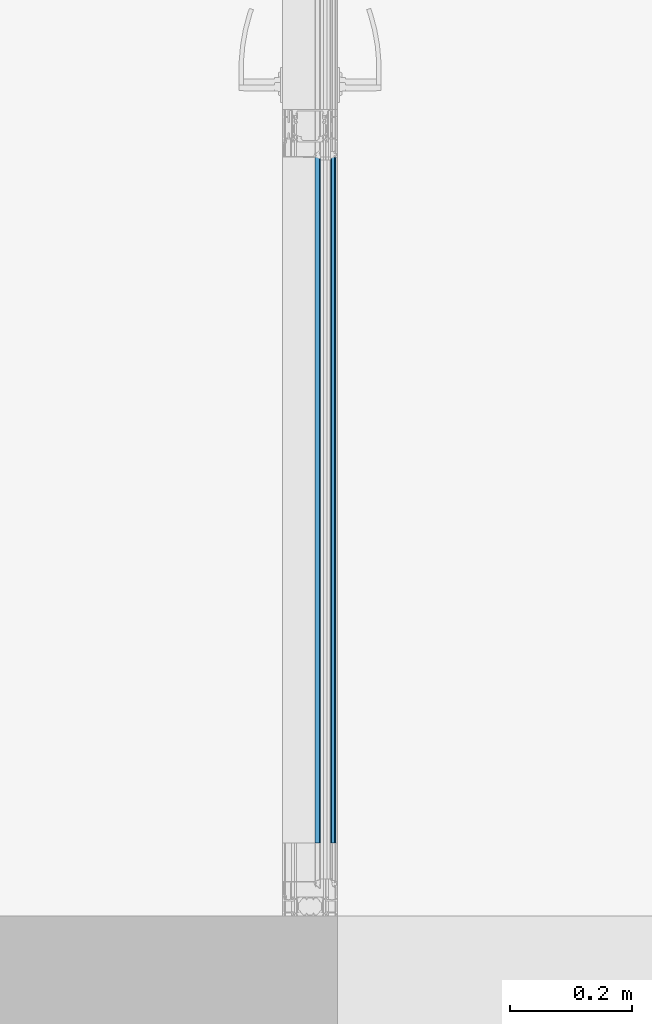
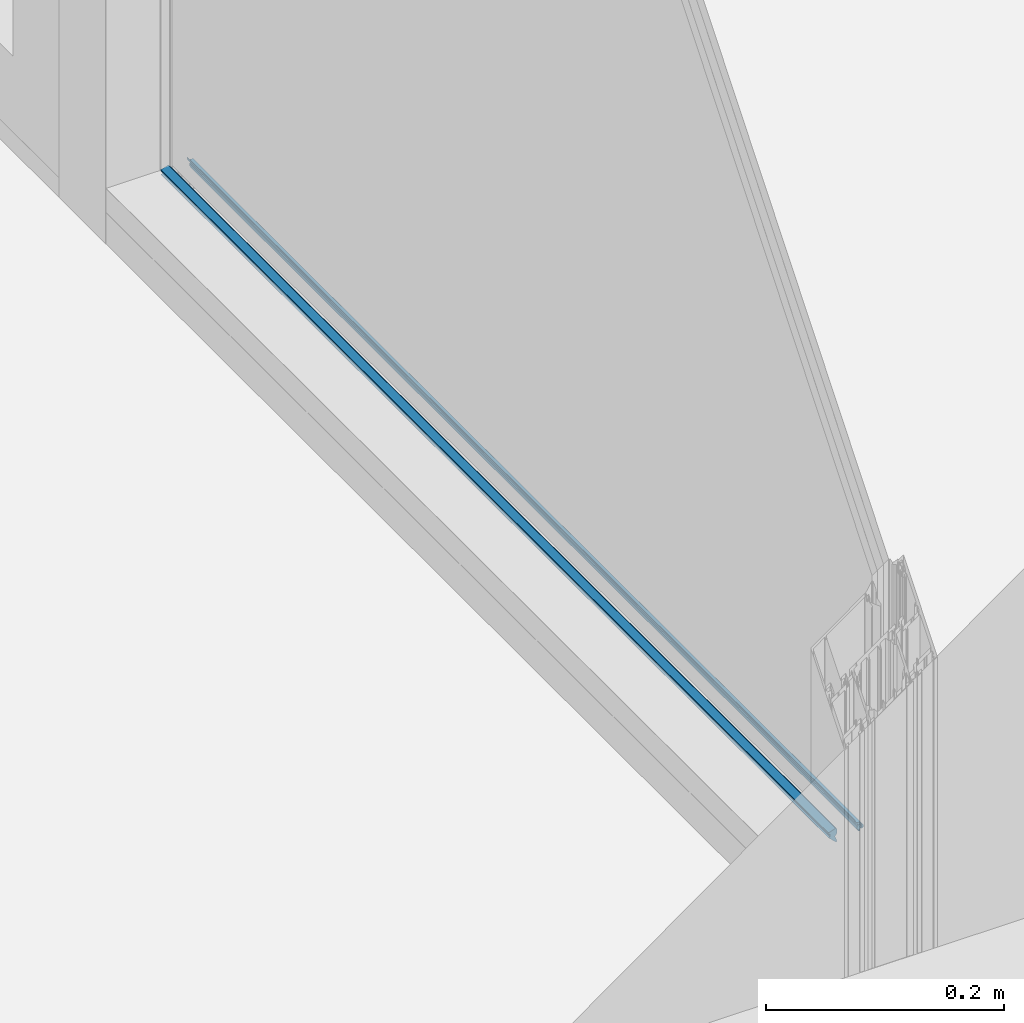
# One storey, part 39 of 65: 1 building element part, 2 elements without a shape of their own.
"""IFC2X3 building model written with IfcOpenShell, lengths in millimetres."""

from ifc_helpers import new_model, entity, si_unit, converted_unit, derived_unit, money_unit, direction, frame, origin_with_axes, place, context, subcontext, project, spatial, faceted_brep, material, type_object, element, aggregate, save


model = new_model("IFC2X3")

# Units and contexts
model_context = context("Model", 3, precision=0.01, world=origin_with_axes(), true_north=direction((0.0, 1.0)))
body_context = subcontext(model_context, "Body", "Model", "MODEL_VIEW")
ifc_project = project(units=[si_unit("LENGTHUNIT", "METRE", prefix="MILLI"), si_unit("AREAUNIT", "SQUARE_METRE"), si_unit("VOLUMEUNIT", "CUBIC_METRE"), converted_unit("PLANEANGLEUNIT", "DEGREE", entity("IfcPlaneAngleMeasure", 0.0174532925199), si_unit("PLANEANGLEUNIT", "RADIAN"), dimensions=[0, 0, 0, 0, 0, 0, 0]), si_unit("SOLIDANGLEUNIT", "STERADIAN"), money_unit("EUR"), converted_unit("TIMEUNIT", "Year", entity("IfcTimeMeasure", 31556926.0), si_unit("TIMEUNIT", "SECOND"), dimensions=[0, 0, 1, 0, 0, 0, 0]), si_unit("MASSUNIT", "GRAM", prefix="KILO"), si_unit("THERMODYNAMICTEMPERATUREUNIT", "DEGREE_CELSIUS"), si_unit("LUMINOUSINTENSITYUNIT", "LUMEN"), si_unit("ENERGYUNIT", "JOULE", prefix="MEGA"), derived_unit("THERMALCONDUCTANCEUNIT", [(si_unit("POWERUNIT", "WATT"), 1), (si_unit("LENGTHUNIT", "METRE"), -1), (si_unit("THERMODYNAMICTEMPERATUREUNIT", "KELVIN"), -1)]), derived_unit("SPECIFICHEATCAPACITYUNIT", [(si_unit("ENERGYUNIT", "JOULE"), 1), (si_unit("MASSUNIT", "GRAM", prefix="KILO"), -1), (si_unit("THERMODYNAMICTEMPERATUREUNIT", "KELVIN"), -1)]), derived_unit("MASSDENSITYUNIT", [(si_unit("MASSUNIT", "GRAM", prefix="KILO"), 1), (si_unit("VOLUMEUNIT", "CUBIC_METRE"), -1)])], contexts=[model_context])

# Site, building, storey
site_placement = place(None, origin_with_axes())
site = spatial("IfcSite", under=ifc_project, at=site_placement, Name="Puškini 31, Narva", CompositionType="ELEMENT")
building_placement = place(site_placement, origin_with_axes())
building = spatial("IfcBuilding", under=site, at=building_placement, Name="Narva Riigigümnaasium", CompositionType="ELEMENT")
storey_placement = place(building_placement, frame((0.0, 0.0, -1320.0), z_axis=(0.0, 0.0, 1.0), x_axis=(1.0, 0.0, 0.0)))
storey = spatial("IfcBuildingStorey", under=building, at=storey_placement, Name="1.korrus -1.32", CompositionType="ELEMENT", Elevation=-1320.0)

# Curtain wall, member, building element part
curtain_wall_type = type_object("IfcCurtainWallType", Name="Curtain Wall Type", PredefinedType="NOTDEFINED")
curtain_wall_placement = place(storey_placement, frame((28354.9542923, 194209.397521, 0.0), z_axis=(0.0, 0.0, 1.0), x_axis=(1.0, 0.0, 0.0)))
curtain_wall = element("IfcCurtainWall", 1, at=curtain_wall_placement, inside=storey, type_object=curtain_wall_type, Name="G-SKLF-07")
member_type = type_object("IfcMemberType", Name="61 x 45", PredefinedType="MULLION")
member_placement = place(curtain_wall_placement, frame((-0.00773685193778, -1909.4016524, 0.0), z_axis=(4.05197718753e-06, 0.999999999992, 0.0), x_axis=(0.0, 0.0, 1.0)))
member = element("IfcMember", 2, at=member_placement, type_object=member_type, Name="G-SKLF-07-raam", ObjectType="MULLION")
aggregate(curtain_wall, [member])
ifc_material = material(Name="Membraan - Veekindel")
building_element_part_placement = place(member_placement, origin_with_axes())
building_element_part = element("IfcBuildingElementPart", 3, at=building_element_part_placement, material=ifc_material, Name="Membraan - Veekindel", context=body_context, shape_type="Brep", body=[
    faceted_brep([(61.0413385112, 34.3890442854, 0.0), (59.5800222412, 34.73794757, 0.0), (59.5800222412, 34.73794757, 1122.0), (61.0413385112, 34.3890442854, 1122.0), (61.1536677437, 34.1934467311, 0.0), (61.1423164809, 33.9681748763, 0.0), (61.0108941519, 33.784859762, 0.0), (60.7381535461, 33.9217644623, 0.0), (59.8409257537, 34.1343131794, 0.0), (58.2346494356, 34.5489145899, 0.0), (56.9567944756, 35.6067920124, 0.0), (56.2495873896, 37.1074172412, 0.0), (56.1542959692, 37.3107917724, 0.0), (55.9795989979, 37.4519392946, 0.0), (55.7607444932, 37.5023809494, 0.0), (55.1093263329, 37.5023809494, 0.0), (54.8593263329, 37.4353936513, 0.0), (54.676313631, 37.2523809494, 0.0), (54.2721684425, 36.5523809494, 0.0), (54.0891557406, 36.3693682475, 0.0), (53.8391557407, 36.3023809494, 0.0), (51.602145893, 36.3023809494, 0.0), (51.352145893, 36.3693682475, 0.0), (51.1691331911, 36.5523809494, 0.0), (50.7649880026, 37.2523809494, 0.0), (50.5819753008, 37.4353936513, 0.0), (50.3319753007, 37.5023809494, 0.0), (49.2206527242, 37.5023809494, 0.0), (48.9706527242, 37.5693682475, 0.0), (48.7876400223, 37.7523809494, 0.0), (48.7206527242, 38.0023809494, 0.0), (48.7206527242, 39.1999494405, 0.0), (50.10004, 39.1999494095, 0.0), (50.1670287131, 38.9499497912, 0.0), (50.3500424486, 38.7669381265, 0.0), (50.6000428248, 38.699952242, 0.0), (50.8500424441, 38.7669409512, 0.0), (51.0330541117, 38.9499546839, 0.0), (51.10004, 39.1999550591, 0.0), (51.10004, 40.4999366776, 0.0), (51.0598476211, 40.6499366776, 0.0), (50.95004, 40.7597442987, 0.0), (50.80004, 40.7999366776, 0.0), (50.7000457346, 40.7999366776, 0.0), (50.5334025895, 40.8504763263, 0.0), (50.4229059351, 40.9850671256, 0.0), (50.4057850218, 41.1583618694, 0.0), (50.4878083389, 41.3119729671, 0.0), (51.5281601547, 42.3533311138, 0.0), (51.6904310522, 42.4618421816, 0.0), (51.8818844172, 42.4999486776, 0.0), (53.517932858, 42.4999486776, 0.0), (53.7093558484, 42.4618547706, 0.0), (53.8716106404, 42.3533776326, 0.0), (54.9122350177, 41.3120206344, 0.0), (54.9942836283, 41.1584047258, 0.0), (54.9771753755, 40.9850924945, 0.0), (54.866675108, 40.850483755, 0.0), (54.7000173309, 40.7999366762, 0.0), (54.6000210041, 40.7999366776, 0.0), (54.4500210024, 40.7597443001, 0.0), (54.3402133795, 40.6499366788, 0.0), (54.300021, 40.4999366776, 0.0), (54.300021, 39.1999606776, 0.0), (54.3670082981, 38.9499606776, 0.0), (54.5500210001, 38.7669479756, 0.0), (54.8000210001, 38.6999606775, 0.0), (55.0500210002, 38.7669479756, 0.0), (55.2330337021, 38.9499606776, 0.0), (55.3000210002, 39.1999606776, 0.0), (57.3000022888, 39.1999494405, 0.0), (57.3000022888, 39.9999846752, 0.0), (57.5000161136, 39.946391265, 0.0), (57.6464370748, 39.799971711, 0.0), (57.7000324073, 39.5999584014, 0.0), (57.9693613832, 36.5265882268, 0.0), (58.4755028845, 35.3628499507, 0.0), (53.5000340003, 40.7999553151, 0.0), (53.4330491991, 41.0499459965, 0.0), (53.2500433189, 41.2329518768, 0.0), (53.0000526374, 41.299936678, 0.0), (52.4000083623, 41.299936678, 0.0), (52.150017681, 41.2329518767, 0.0), (51.9670118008, 41.0499459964, 0.0), (51.9000269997, 40.799955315, 0.0), (51.9000269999, 39.6999268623, 0.0), (51.9670129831, 39.4499317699, 0.0), (52.1500220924, 39.2669226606, 0.0), (52.4000171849, 39.1999366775, 0.0), (53.0000438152, 39.1999366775, 0.0), (53.2500389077, 39.2669226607, 0.0), (53.433048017, 39.44993177, 0.0), (58.4755028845, 35.3628499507, 1122.0), (57.9693613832, 36.5265882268, 1122.0), (57.7000324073, 39.5999584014, 1122.0), (57.6464370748, 39.799971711, 1122.0), (57.5000161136, 39.946391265, 1122.0), (57.3000022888, 39.9999846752, 1122.0), (57.3000022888, 39.1999494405, 1122.0), (55.3000210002, 39.1999606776, 1122.0), (55.2330337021, 38.9499606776, 1122.0), (55.0500210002, 38.7669479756, 1122.0), (54.8000210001, 38.6999606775, 1122.0), (54.5500210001, 38.7669479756, 1122.0), (54.3670082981, 38.9499606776, 1122.0), (54.300021, 39.1999606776, 1122.0), (54.300021, 40.4999366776, 1122.0), (54.3402133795, 40.6499366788, 1122.0), (54.4500210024, 40.7597443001, 1122.0), (54.6000210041, 40.7999366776, 1122.0), (54.7000173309, 40.7999366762, 1122.0), (54.866675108, 40.850483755, 1122.0), (54.9771753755, 40.9850924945, 1122.0), (54.9942836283, 41.1584047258, 1122.0), (54.9122350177, 41.3120206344, 1122.0), (53.8716106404, 42.3533776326, 1122.0), (53.7093558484, 42.4618547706, 1122.0), (53.517932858, 42.4999486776, 1122.0), (51.8818844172, 42.4999486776, 1122.0), (51.6904310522, 42.4618421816, 1122.0), (51.5281601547, 42.3533311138, 1122.0), (50.4878083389, 41.3119729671, 1122.0), (50.4057850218, 41.1583618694, 1122.0), (50.4229059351, 40.9850671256, 1122.0), (50.5334025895, 40.8504763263, 1122.0), (50.7000457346, 40.7999366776, 1122.0), (50.80004, 40.7999366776, 1122.0), (50.95004, 40.7597442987, 1122.0), (51.0598476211, 40.6499366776, 1122.0), (51.10004, 40.4999366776, 1122.0), (51.10004, 39.1999550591, 1122.0), (51.0330541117, 38.9499546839, 1122.0), (50.8500424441, 38.7669409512, 1122.0), (50.6000428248, 38.699952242, 1122.0), (50.3500424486, 38.7669381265, 1122.0), (50.1670287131, 38.9499497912, 1122.0), (50.10004, 39.1999494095, 1122.0), (48.7206527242, 39.1999494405, 1122.0), (48.7206527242, 38.0023809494, 1122.0), (48.7876400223, 37.7523809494, 1122.0), (48.9706527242, 37.5693682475, 1122.0), (49.2206527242, 37.5023809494, 1122.0), (50.3319753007, 37.5023809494, 1122.0), (50.5819753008, 37.4353936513, 1122.0), (50.7649880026, 37.2523809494, 1122.0), (51.1691331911, 36.5523809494, 1122.0), (51.352145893, 36.3693682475, 1122.0), (51.602145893, 36.3023809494, 1122.0), (53.8391557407, 36.3023809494, 1122.0), (54.0891557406, 36.3693682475, 1122.0), (54.2721684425, 36.5523809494, 1122.0), (54.676313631, 37.2523809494, 1122.0), (54.8593263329, 37.4353936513, 1122.0), (55.1093263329, 37.5023809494, 1122.0), (55.7607444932, 37.5023809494, 1122.0), (55.9795989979, 37.4519392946, 1122.0), (56.1542959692, 37.3107917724, 1122.0), (56.2495873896, 37.1074172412, 1122.0), (56.9567944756, 35.6067920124, 1122.0), (58.2346494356, 34.5489145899, 1122.0), (59.8409257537, 34.1343131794, 1122.0), (60.7381535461, 33.9217644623, 1122.0), (61.0108941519, 33.784859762, 1122.0), (61.1423164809, 33.9681748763, 1122.0), (61.1536677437, 34.1934467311, 1122.0), (53.5000340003, 40.7999553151, 1122.0), (53.433048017, 39.44993177, 1122.0), (53.2500389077, 39.2669226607, 1122.0), (53.0000438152, 39.1999366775, 1122.0), (52.4000171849, 39.1999366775, 1122.0), (52.1500220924, 39.2669226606, 1122.0), (51.9670129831, 39.4499317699, 1122.0), (51.9000269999, 39.6999268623, 1122.0), (51.9000269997, 40.799955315, 1122.0), (51.9670118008, 41.0499459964, 1122.0), (52.150017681, 41.2329518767, 1122.0), (52.4000083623, 41.299936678, 1122.0), (53.0000526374, 41.299936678, 1122.0), (53.2500433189, 41.2329518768, 1122.0), (53.4330491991, 41.0499459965, 1122.0)], [[[0, 1, 2, 3]], [[0, 4, 5, 6, 7, 8, 9, 10, 11, 12, 13, 14, 15, 16, 17, 18, 19, 20, 21, 22, 23, 24, 25, 26, 27, 28, 29, 30, 31, 32, 33, 34, 35, 36, 37, 38, 39, 40, 41, 42, 43, 44, 45, 46, 47, 48, 49, 50, 51, 52, 53, 54, 55, 56, 57, 58, 59, 60, 61, 62, 63, 64, 65, 66, 67, 68, 69, 70, 71, 72, 73, 74, 75, 76, 1], [77, 78, 79, 80, 81, 82, 83, 84, 85, 86, 87, 88, 89, 90, 91]], [[1, 76, 92, 2]], [[3, 2, 92, 93, 94, 95, 96, 97, 98, 99, 100, 101, 102, 103, 104, 105, 106, 107, 108, 109, 110, 111, 112, 113, 114, 115, 116, 117, 118, 119, 120, 121, 122, 123, 124, 125, 126, 127, 128, 129, 130, 131, 132, 133, 134, 135, 136, 137, 138, 139, 140, 141, 142, 143, 144, 145, 146, 147, 148, 149, 150, 151, 152, 153, 154, 155, 156, 157, 158, 159, 160, 161, 162, 163, 164], [165, 166, 167, 168, 169, 170, 171, 172, 173, 174, 175, 176, 177, 178, 179]], [[4, 0, 3, 164]], [[5, 4, 164, 163]], [[6, 5, 163, 162]], [[7, 6, 162, 161]], [[8, 7, 161, 160]], [[9, 8, 160, 159]], [[10, 9, 159, 158]], [[11, 10, 158, 157]], [[12, 11, 157, 156]], [[13, 12, 156, 155]], [[14, 13, 155, 154]], [[15, 14, 154, 153]], [[16, 15, 153, 152]], [[17, 16, 152, 151]], [[18, 17, 151, 150]], [[19, 18, 150, 149]], [[20, 19, 149, 148]], [[21, 20, 148, 147]], [[22, 21, 147, 146]], [[23, 22, 146, 145]], [[24, 23, 145, 144]], [[25, 24, 144, 143]], [[26, 25, 143, 142]], [[27, 26, 142, 141]], [[28, 27, 141, 140]], [[29, 28, 140, 139]], [[30, 29, 139, 138]], [[31, 30, 138, 137]], [[32, 31, 137, 136]], [[33, 32, 136, 135]], [[34, 33, 135, 134]], [[35, 34, 134, 133]], [[36, 35, 133, 132]], [[37, 36, 132, 131]], [[38, 37, 131, 130]], [[39, 38, 130, 129]], [[40, 39, 129, 128]], [[41, 40, 128, 127]], [[42, 41, 127, 126]], [[43, 42, 126, 125]], [[44, 43, 125, 124]], [[45, 44, 124, 123]], [[46, 45, 123, 122]], [[47, 46, 122, 121]], [[48, 47, 121, 120]], [[49, 48, 120, 119]], [[50, 49, 119, 118]], [[51, 50, 118, 117]], [[52, 51, 117, 116]], [[53, 52, 116, 115]], [[54, 53, 115, 114]], [[55, 54, 114, 113]], [[56, 55, 113, 112]], [[57, 56, 112, 111]], [[58, 57, 111, 110]], [[59, 58, 110, 109]], [[60, 59, 109, 108]], [[61, 60, 108, 107]], [[62, 61, 107, 106]], [[63, 62, 106, 105]], [[64, 63, 105, 104]], [[65, 64, 104, 103]], [[66, 65, 103, 102]], [[67, 66, 102, 101]], [[68, 67, 101, 100]], [[69, 68, 100, 99]], [[70, 69, 99, 98]], [[71, 70, 98, 97]], [[72, 71, 97, 96]], [[73, 72, 96, 95]], [[74, 73, 95, 94]], [[75, 74, 94, 93]], [[76, 75, 93, 92]], [[78, 77, 165, 179]], [[79, 78, 179, 178]], [[80, 79, 178, 177]], [[81, 80, 177, 176]], [[82, 81, 176, 175]], [[83, 82, 175, 174]], [[84, 83, 174, 173]], [[85, 84, 173, 172]], [[86, 85, 172, 171]], [[87, 86, 171, 170]], [[88, 87, 170, 169]], [[89, 88, 169, 168]], [[90, 89, 168, 167]], [[91, 90, 167, 166]], [[77, 91, 166, 165]]]),
    faceted_brep([(59.0307115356, 16.554149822, 0.0), (55.9926715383, 16.8063498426, 0.0), (55.9926715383, 16.8063498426, 1122.0), (59.0307115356, 16.554149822, 1122.0), (59.3884652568, 16.1092618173, 0.0), (59.5001582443, 15.5494067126, 0.0), (59.3405112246, 15.0012955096, 0.0), (57.5418652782, 10.0035930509, 0.0), (57.2632233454, 8.46932121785, 0.0), (57.1824204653, 8.36745448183, 0.0), (57.0661058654, 8.3093438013, 0.0), (56.9361285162, 8.30590490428, 0.0), (55.5361285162, 8.57803733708, 0.0), (55.4168250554, 8.62997353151, 0.0), (55.3307332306, 8.72753828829, 0.0), (55.2940485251, 8.85237785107, 0.0), (55.4099827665, 9.81272116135, 0.0), (55.3838261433, 9.9780831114, 0.0), (55.2731258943, 10.1036784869, 0.0), (55.1123574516, 10.1503930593, 0.0), (53.0580290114, 10.1503930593, 0.0), (52.8859560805, 10.0961386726, 0.0), (52.7761212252, 9.95299910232, 0.0), (52.3556584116, 8.79778701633, 0.0), (52.2574645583, 8.66326410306, 0.0), (52.1026310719, 8.60190419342, 0.0), (51.938943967, 8.6326446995, 0.0), (51.8169217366, 8.74599822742, 0.0), (45.6142070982, 15.4144760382, 0.0), (45.3418968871, 15.7688623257, 0.0), (45.3195226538, 16.2152275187, 0.0), (45.3889077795, 16.3899097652, 0.0), (45.6241929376, 16.6482027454, 0.0), (45.950966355, 16.7718696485, 0.0), (46.298307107, 16.7340705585, 0.0), (50.5536994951, 15.2121179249, 0.0), (50.8437237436, 15.0307134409, 0.0), (51.0558924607, 14.9074036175, 0.0), (51.3011765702, 14.8998814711, 0.0), (51.5205025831, 15.0099586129, 0.0), (53.1225200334, 16.3483062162, 0.0), (53.7899070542, 16.6230039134, 0.0), (53.7899070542, 16.6230039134, 1122.0), (53.1225200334, 16.3483062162, 1122.0), (51.5205025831, 15.0099586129, 1122.0), (51.3011765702, 14.8998814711, 1122.0), (51.0558924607, 14.9074036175, 1122.0), (50.8437237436, 15.0307134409, 1122.0), (50.5536994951, 15.2121179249, 1122.0), (46.298307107, 16.7340705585, 1122.0), (45.950966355, 16.7718696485, 1122.0), (45.6241929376, 16.6482027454, 1122.0), (45.3889077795, 16.3899097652, 1122.0), (45.3195226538, 16.2152275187, 1122.0), (45.3418968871, 15.7688623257, 1122.0), (45.6142070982, 15.4144760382, 1122.0), (51.8169217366, 8.74599822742, 1122.0), (51.938943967, 8.6326446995, 1122.0), (52.1026310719, 8.60190419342, 1122.0), (52.2574645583, 8.66326410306, 1122.0), (52.3556584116, 8.79778701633, 1122.0), (52.7761212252, 9.95299910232, 1122.0), (52.8859560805, 10.0961386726, 1122.0), (53.0580290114, 10.1503930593, 1122.0), (55.1123574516, 10.1503930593, 1122.0), (55.2731258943, 10.1036784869, 1122.0), (55.3838261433, 9.9780831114, 1122.0), (55.4099827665, 9.81272116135, 1122.0), (55.2940485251, 8.85237785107, 1122.0), (55.3307332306, 8.72753828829, 1122.0), (55.4168250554, 8.62997353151, 1122.0), (55.5361285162, 8.57803733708, 1122.0), (56.9361285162, 8.30590490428, 1122.0), (57.0661058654, 8.3093438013, 1122.0), (57.1824204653, 8.36745448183, 1122.0), (57.2632233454, 8.46932121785, 1122.0), (57.5418652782, 10.0035930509, 1122.0), (59.3405112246, 15.0012955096, 1122.0), (59.5001582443, 15.5494067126, 1122.0), (59.3884652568, 16.1092618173, 1122.0)], [[[0, 1, 2, 3]], [[0, 4, 5, 6, 7, 8, 9, 10, 11, 12, 13, 14, 15, 16, 17, 18, 19, 20, 21, 22, 23, 24, 25, 26, 27, 28, 29, 30, 31, 32, 33, 34, 35, 36, 37, 38, 39, 40, 41, 1]], [[1, 41, 42, 2]], [[3, 2, 42, 43, 44, 45, 46, 47, 48, 49, 50, 51, 52, 53, 54, 55, 56, 57, 58, 59, 60, 61, 62, 63, 64, 65, 66, 67, 68, 69, 70, 71, 72, 73, 74, 75, 76, 77, 78, 79]], [[4, 0, 3, 79]], [[5, 4, 79, 78]], [[6, 5, 78, 77]], [[7, 6, 77, 76]], [[8, 7, 76, 75]], [[9, 8, 75, 74]], [[10, 9, 74, 73]], [[11, 10, 73, 72]], [[12, 11, 72, 71]], [[13, 12, 71, 70]], [[14, 13, 70, 69]], [[15, 14, 69, 68]], [[16, 15, 68, 67]], [[17, 16, 67, 66]], [[18, 17, 66, 65]], [[19, 18, 65, 64]], [[20, 19, 64, 63]], [[21, 20, 63, 62]], [[22, 21, 62, 61]], [[23, 22, 61, 60]], [[24, 23, 60, 59]], [[25, 24, 59, 58]], [[26, 25, 58, 57]], [[27, 26, 57, 56]], [[28, 27, 56, 55]], [[29, 28, 55, 54]], [[30, 29, 54, 53]], [[31, 30, 53, 52]], [[32, 31, 52, 51]], [[33, 32, 51, 50]], [[34, 33, 50, 49]], [[35, 34, 49, 48]], [[36, 35, 48, 47]], [[37, 36, 47, 46]], [[38, 37, 46, 45]], [[39, 38, 45, 44]], [[40, 39, 44, 43]], [[41, 40, 43, 42]]]),
])
aggregate(member, [building_element_part])

save(model, "model.ifc")
